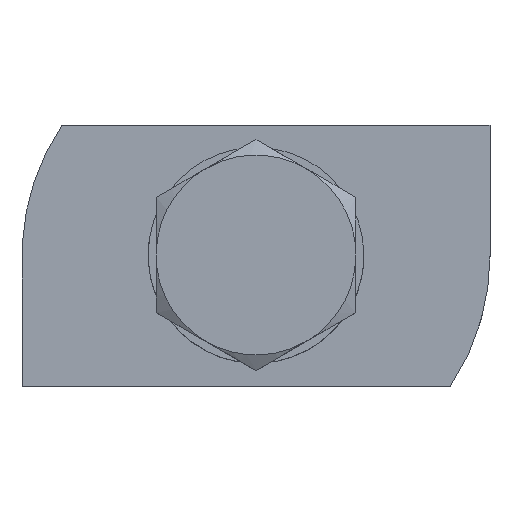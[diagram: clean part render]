
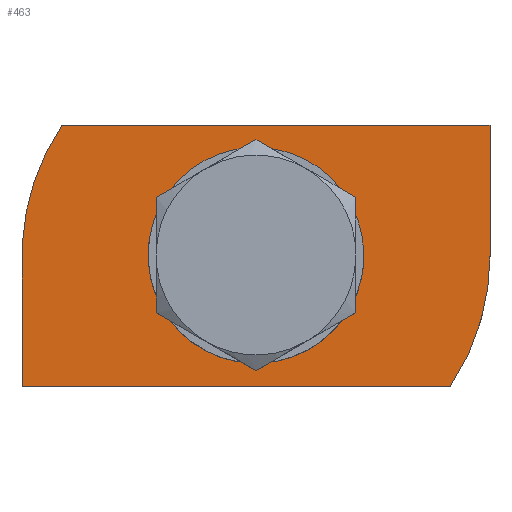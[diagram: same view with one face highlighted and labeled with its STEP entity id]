
A CAD part, top view. The second image highlights one B-rep face of the part: STEP entity #463.
In plain terms, the highlighted planar face has unit normal (0, 0, 1).
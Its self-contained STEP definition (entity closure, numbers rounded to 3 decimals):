
#27=FACE_BOUND($,#564,.T.);
#35=PLANE($,#1322);
#463=ADVANCED_FACE($,(#512,#27),#35,.T.);
#512=FACE_OUTER_BOUND($,#563,.T.);
#563=EDGE_LOOP($,(#659,#660,#661,#662,#663));
#564=EDGE_LOOP($,(#664));
#659=ORIENTED_EDGE($,*,*,#838,.T.);
#660=ORIENTED_EDGE($,*,*,#842,.T.);
#661=ORIENTED_EDGE($,*,*,#841,.T.);
#662=ORIENTED_EDGE($,*,*,#840,.T.);
#663=ORIENTED_EDGE($,*,*,#839,.T.);
#664=ORIENTED_EDGE($,*,*,#843,.T.);
#838=EDGE_CURVE($,#995,#999,#1160,.T.);
#839=EDGE_CURVE($,#996,#995,#1248,.T.);
#840=EDGE_CURVE($,#997,#996,#1161,.T.);
#841=EDGE_CURVE($,#998,#997,#1249,.T.);
#842=EDGE_CURVE($,#999,#998,#1162,.T.);
#843=EDGE_CURVE($,#1000,#1000,#1163,.T.);
#995=VERTEX_POINT($,#1869);
#996=VERTEX_POINT($,#1870);
#997=VERTEX_POINT($,#1871);
#998=VERTEX_POINT($,#1872);
#999=VERTEX_POINT($,#1873);
#1000=VERTEX_POINT($,#1874);
#1160=B_SPLINE_CURVE_WITH_KNOTS($,1,(#1835,#1836),.UNSPECIFIED.,.F.,.F.,
(2,2),(50.678,60.178),.UNSPECIFIED.);
#1161=B_SPLINE_CURVE_WITH_KNOTS($,1,(#1840,#1841),.UNSPECIFIED.,.F.,.F.,
(2,2),(110.857,141.954),.UNSPECIFIED.);
#1162=B_SPLINE_CURVE_WITH_KNOTS($,1,(#1847,#1848),.UNSPECIFIED.,.F.,.F.,
(2,2),(60.178,91.276),.UNSPECIFIED.);
#1163=B_SPLINE_CURVE_WITH_KNOTS($,3,(#1849,#1850,#1851,#1852,#1853,#1854,
#1855,#1856,#1857,#1858,#1859,#1860,#1861,#1862,#1863,#1864,#1865,#1866,
#1867),.UNSPECIFIED.,.T.,.F.,(4,1,1,1,1,1,1,1,1,1,1,1,1,1,1,1,4),(0.,1.649,
3.436,5.232,7.106,8.755,10.542,
12.337,14.212,15.861,17.648,19.443,
21.318,22.967,24.753,26.549,28.423),
.UNSPECIFIED.);
#1248=(
BOUNDED_CURVE()
B_SPLINE_CURVE(2,(#1837,#1838,#1839),.UNSPECIFIED.,.F.,.F.)
B_SPLINE_CURVE_WITH_KNOTS((3,3),(141.954,152.035),.UNSPECIFIED.)
CURVE()
GEOMETRIC_REPRESENTATION_ITEM()
RATIONAL_B_SPLINE_CURVE((1.,0.956,1.))
REPRESENTATION_ITEM($)
);
#1249=(
BOUNDED_CURVE()
B_SPLINE_CURVE(2,(#1842,#1843,#1844,#1845,#1846),.UNSPECIFIED.,.F.,.F.)
B_SPLINE_CURVE_WITH_KNOTS((3,2,3),(91.276,101.357,110.857),
.UNSPECIFIED.)
CURVE()
GEOMETRIC_REPRESENTATION_ITEM()
RATIONAL_B_SPLINE_CURVE((1.,0.956,1.,1.,1.))
REPRESENTATION_ITEM($)
);
#1322=AXIS2_PLACEMENT_3D($,#1868,#1345,$);
#1345=DIRECTION($,(0.,0.,1.));
#1835=CARTESIAN_POINT($,(17.,0.,6.));
#1836=CARTESIAN_POINT($,(17.,9.5,6.));
#1837=CARTESIAN_POINT($,(14.098,-9.5,6.));
#1838=CARTESIAN_POINT($,(17.,-5.193,6.));
#1839=CARTESIAN_POINT($,(17.,0.,6.));
#1840=CARTESIAN_POINT($,(-17.,-9.5,6.));
#1841=CARTESIAN_POINT($,(14.098,-9.5,6.));
#1842=CARTESIAN_POINT($,(-14.098,9.5,6.));
#1843=CARTESIAN_POINT($,(-17.,5.193,6.));
#1844=CARTESIAN_POINT($,(-17.,0.,6.));
#1845=CARTESIAN_POINT($,(-17.,-4.75,6.));
#1846=CARTESIAN_POINT($,(-17.,-9.5,6.));
#1847=CARTESIAN_POINT($,(17.,9.5,6.));
#1848=CARTESIAN_POINT($,(-14.098,9.5,6.));
#1849=CARTESIAN_POINT($,(4.524,0.,6.));
#1850=CARTESIAN_POINT($,(4.524,-0.55,6.));
#1851=CARTESIAN_POINT($,(4.313,-1.695,6.));
#1852=CARTESIAN_POINT($,(3.366,-3.2,6.));
#1853=CARTESIAN_POINT($,(1.848,-4.267,6.));
#1854=CARTESIAN_POINT($,(0.075,-4.639,6.));
#1855=CARTESIAN_POINT($,(-1.695,-4.313,6.));
#1856=CARTESIAN_POINT($,(-3.2,-3.366,6.));
#1857=CARTESIAN_POINT($,(-4.267,-1.848,6.));
#1858=CARTESIAN_POINT($,(-4.639,-0.075,6.));
#1859=CARTESIAN_POINT($,(-4.313,1.695,6.));
#1860=CARTESIAN_POINT($,(-3.366,3.2,6.));
#1861=CARTESIAN_POINT($,(-1.848,4.267,6.));
#1862=CARTESIAN_POINT($,(-0.075,4.639,6.));
#1863=CARTESIAN_POINT($,(1.695,4.313,6.));
#1864=CARTESIAN_POINT($,(3.2,3.366,6.));
#1865=CARTESIAN_POINT($,(4.267,1.848,6.));
#1866=CARTESIAN_POINT($,(4.524,0.625,6.));
#1867=CARTESIAN_POINT($,(4.524,0.,6.));
#1868=CARTESIAN_POINT($,(-17.,-9.5,6.));
#1869=CARTESIAN_POINT($,(17.,0.,6.));
#1870=CARTESIAN_POINT($,(14.098,-9.5,6.));
#1871=CARTESIAN_POINT($,(-17.,-9.5,6.));
#1872=CARTESIAN_POINT($,(-14.098,9.5,6.));
#1873=CARTESIAN_POINT($,(17.,9.5,6.));
#1874=CARTESIAN_POINT($,(4.524,0.,6.));
